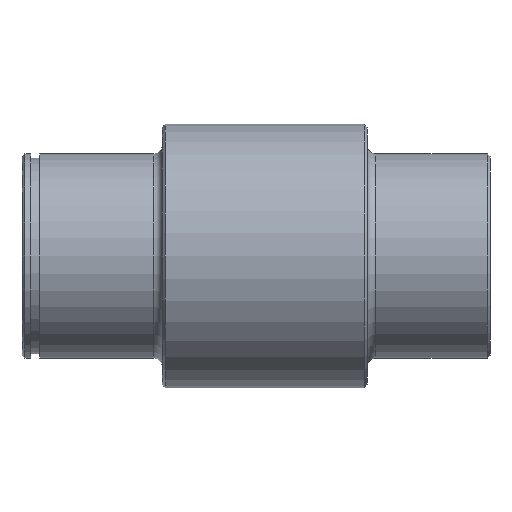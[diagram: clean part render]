
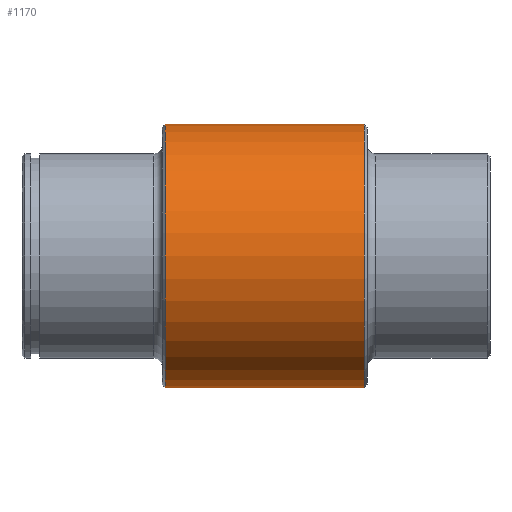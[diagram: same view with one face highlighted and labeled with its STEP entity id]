
A CAD part, front view. The second image highlights one B-rep face of the part: STEP entity #1170.
In plain terms, the highlighted cylindrical face has radius 45 mm (diameter 90 mm), a full revolution.
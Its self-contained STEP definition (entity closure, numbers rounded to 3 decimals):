
#77=LINE('',#1966,#163);
#163=VECTOR('',#1544,45.);
#234=CYLINDRICAL_SURFACE('',#1301,45.);
#275=FACE_OUTER_BOUND('',#345,.T.);
#345=EDGE_LOOP('',(#887,#888,#889,#890,#891,#892));
#433=CIRCLE('',#1299,45.);
#434=CIRCLE('',#1300,45.);
#435=CIRCLE('',#1302,45.);
#436=CIRCLE('',#1303,45.);
#552=VERTEX_POINT('',#1956);
#553=VERTEX_POINT('',#1957);
#554=VERTEX_POINT('',#1962);
#555=VERTEX_POINT('',#1963);
#684=EDGE_CURVE('',#552,#553,#433,.T.);
#685=EDGE_CURVE('',#553,#552,#434,.T.);
#687=EDGE_CURVE('',#554,#555,#435,.T.);
#688=EDGE_CURVE('',#555,#554,#436,.T.);
#689=EDGE_CURVE('',#555,#553,#77,.T.);
#887=ORIENTED_EDGE('',*,*,#687,.F.);
#888=ORIENTED_EDGE('',*,*,#688,.F.);
#889=ORIENTED_EDGE('',*,*,#689,.T.);
#890=ORIENTED_EDGE('',*,*,#684,.F.);
#891=ORIENTED_EDGE('',*,*,#685,.F.);
#892=ORIENTED_EDGE('',*,*,#689,.F.);
#1170=ADVANCED_FACE('',(#275),#234,.T.);
#1299=AXIS2_PLACEMENT_3D('',#1958,#1533,#1534);
#1300=AXIS2_PLACEMENT_3D('',#1959,#1535,#1536);
#1301=AXIS2_PLACEMENT_3D('',#1961,#1538,#1539);
#1302=AXIS2_PLACEMENT_3D('',#1964,#1540,#1541);
#1303=AXIS2_PLACEMENT_3D('',#1965,#1542,#1543);
#1533=DIRECTION('center_axis',(-1.,0.,0.));
#1534=DIRECTION('ref_axis',(0.,-1.,0.));
#1535=DIRECTION('center_axis',(-1.,0.,0.));
#1536=DIRECTION('ref_axis',(0.,-1.,0.));
#1538=DIRECTION('center_axis',(1.,0.,0.));
#1539=DIRECTION('ref_axis',(0.,1.,0.));
#1540=DIRECTION('center_axis',(1.,0.,0.));
#1541=DIRECTION('ref_axis',(0.,-1.,0.));
#1542=DIRECTION('center_axis',(1.,0.,0.));
#1543=DIRECTION('ref_axis',(0.,-1.,0.));
#1544=DIRECTION('',(-1.,0.,0.));
#1956=CARTESIAN_POINT('',(49.,45.,0.));
#1957=CARTESIAN_POINT('',(49.,-45.,0.));
#1958=CARTESIAN_POINT('Origin',(49.,0.,0.));
#1959=CARTESIAN_POINT('Origin',(49.,0.,0.));
#1961=CARTESIAN_POINT('Origin',(83.,0.,0.));
#1962=CARTESIAN_POINT('',(117.,45.,0.));
#1963=CARTESIAN_POINT('',(117.,-45.,0.));
#1964=CARTESIAN_POINT('Origin',(117.,0.,0.));
#1965=CARTESIAN_POINT('Origin',(117.,0.,0.));
#1966=CARTESIAN_POINT('',(83.,-45.,0.));
